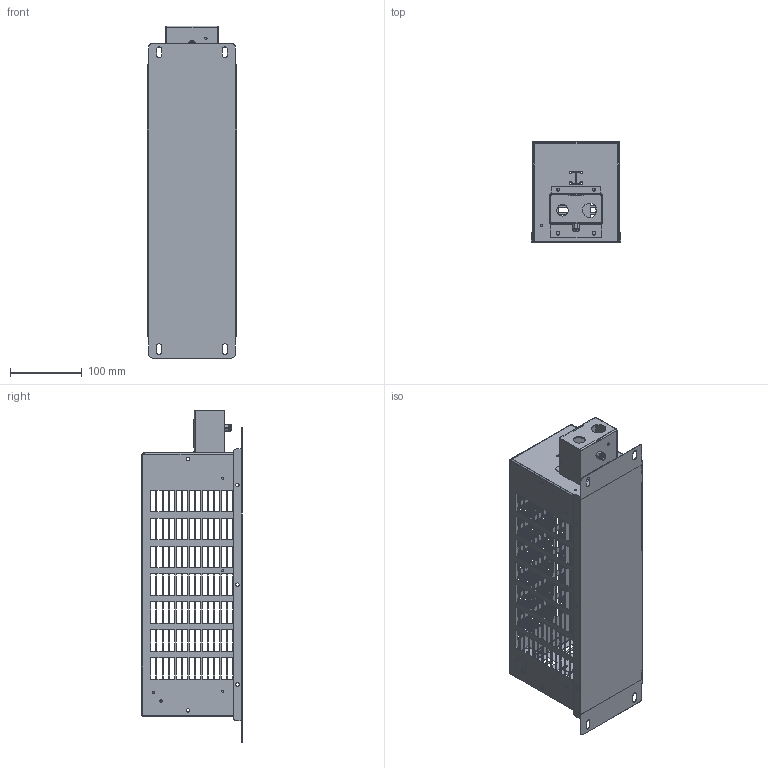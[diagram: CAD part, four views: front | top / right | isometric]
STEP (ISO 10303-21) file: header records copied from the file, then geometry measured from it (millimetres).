
FILE_DESCRIPTION(/* description */ (''),/* implementation_level */ '2;1');
FILE_NAME(/* name */ 'C:\_Vault\Dati\CATALOGO\RME\CT MARZO 2015\Assieme1-2L\Assieme1L.stp',/* time_stamp */ '2017-11-10T09:52:02+01:00',/* author */ ('Diego'),/* organization */ ('Fairfild Srl'),/* preprocessor_version */ 'ST-DEVELOPER v16.5',/* originating_system */ 'Autodesk Inventor 2017',/* authorisation */ '');
FILE_SCHEMA (('CONFIG_CONTROL_DESIGN'));
Products named in the file (1): Assieme1L
Bounding box: 124.5 x 140.9 x 464.3 mm (x, y, z)
Volume: 184458.1 mm3; surface area: 444533.7 mm2
Topology: 3 solids, 3 shells, 2761 faces, 7844 edges, 5222 vertices
Faces by surface type: plane 1969, bspline 640, cylinder 143, cone 8, torus 1
Full cylindrical faces by diameter (mm): 3 x3, 3.2 x11, 3.3 x2, 3.5 x1, 4.2 x3, 4.5 x3, 5 x27, 6 x1, 7.5 x1, 16 x1, 19 x1, 20 x1
Entity records: 95629 total; most frequent: CARTESIAN_POINT 24118, ORIENTED_EDGE 15564, DIRECTION 11026, EDGE_CURVE 7782, LINE 6186, VECTOR 6186, VERTEX_POINT 5218, EDGE_LOOP 3600
